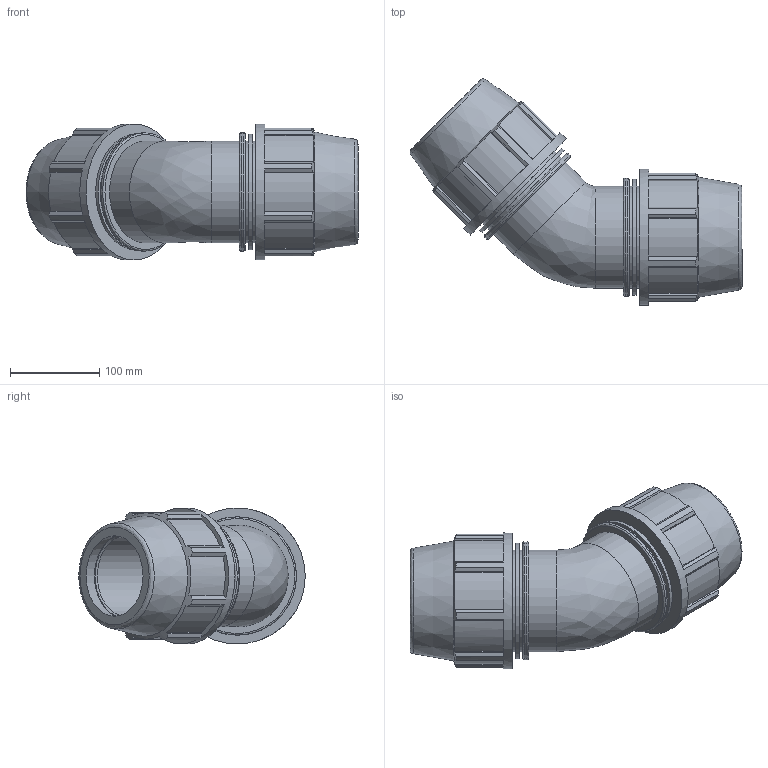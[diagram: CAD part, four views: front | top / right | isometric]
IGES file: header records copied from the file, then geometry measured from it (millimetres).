
Global section: file name: 870600090_180600090.ipt; native system: Autodesk Inventor 2015; preprocessor: unknown; author: Кирилл,,11,0; organization: 20170224.180708; date: 20170608.042503; units: millimetre
Bounding box: 371.18 x 253.18 x 152 mm (x, y, z)
Volume: 2565912.9 mm3; surface area: 327488.3 mm2
Topology: 1 solids, 1 shells, 140 faces, 388 edges, 262 vertices
Faces by surface type: plane 94, cylinder 28, revolution 14, cone 4
Full cylindrical faces by diameter (mm): 114 x6, 129.595 x2, 132.24 x2, 152 x2
